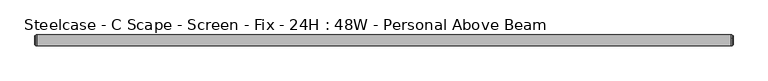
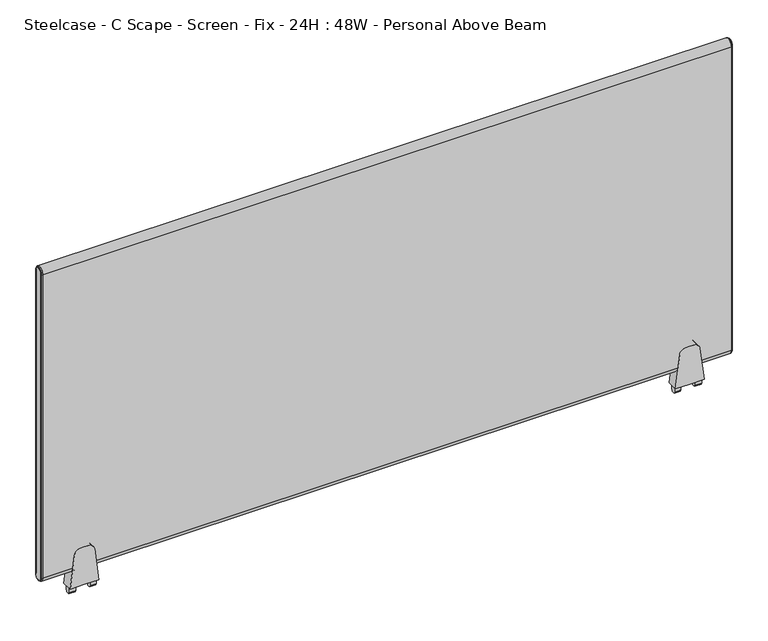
"""IFC4 building model written with IfcOpenShell, lengths in millimetres: furniture geometry, Steelcase - C Scape - Screen - Fix - 24H : 48W - Personal Above Beam."""

from ifc_helpers import new_model, si_unit, point, frame, frame_2d, origin, place, context, project, spatial, polyline, circle_curve, ellipse_curve, trimmed, segment, composite_curve, outline, extrude, source, transform, mapped, element, save
from ifc_brep_helpers import plane_surface, cylinder_surface, revolved_surface, advanced_brep


def steelcase_c_scape_screen_fix_24h_48w_personal_above_beam_5a57afd3(model_context):
    return source(origin(), model_context, "Body", "SolidModel", [
        extrude(outline(composite_curve([segment(polyline([(723.811112, 101.4730434), (784.1362421, 94.0661495)]), True, "CONTINUOUS"), segment(trimmed(circle_curve(frame_2d((782.8143718, 83.300233)), 10.8467645), [point((784.1362421, 94.0661495))], [point((793.6611362, 83.300233))], False, "CARTESIAN"), True, "CONTINUOUS"), segment(polyline([(793.6611362, 83.300233), (793.6611362, 76.2001674), (793.6611362, 69.1001018)]), True, "CONTINUOUS"), segment(trimmed(circle_curve(frame_2d((782.8143718, 69.1001018)), 10.8467645), [point((793.6611362, 69.1001018))], [point((784.1362421, 58.3341853))], False, "CARTESIAN"), True, "CONTINUOUS"), segment(polyline([(784.1362421, 58.3341853), (723.811112, 50.9272915), (723.811112, 76.2001674), (723.811112, 101.4730434)]), True, "CONTINUOUS")], self_intersect=False)), frame((0.0, -9.525, 0.0), z_axis=(0.0, 1.0, 0.0), x_axis=(0.0, 0.0, 1.0)), (0.0, 0.0, 1.0), 19.05),
        extrude(outline(polyline([(4.5465975, 723.811112), (4.5465975, 713.9051033), (4.0139265, 713.0186748), (2.9972008, 713.0186748), (2.9972008, 710.7834188), (0.0, 710.692), (-2.9972008, 710.7834188), (-2.9972008, 713.0186748), (-4.0139265, 713.0186748), (-4.5465975, 713.9051033), (-4.5465975, 723.811112), (0.0, 723.811112), (4.5465975, 723.811112)])), frame((88.9267162, 0.0, 0.0), z_axis=(1.0, 0.0, 0.0), x_axis=(0.0, 1.0, 0.0)), (0.0, 0.0, 1.0), 10.7813187),
        extrude(outline(polyline([(4.5465975, 723.811112), (4.5465975, 713.9051033), (4.0139265, 713.0186748), (2.9972008, 713.0186748), (2.9972008, 710.7834188), (0.0, 710.692), (-2.9972008, 710.7834188), (-2.9972008, 713.0186748), (-4.0139265, 713.0186748), (-4.5465975, 713.9051033), (-4.5465975, 723.811112), (0.0, 723.811112), (4.5465975, 723.811112)])), frame((52.6923, 0.0, 0.0), z_axis=(1.0, 0.0, 0.0), x_axis=(0.0, 1.0, 0.0)), (0.0, 0.0, 1.0), 10.7813187),
        extrude(outline(composite_curve([segment(polyline([(723.811112, 1167.5107132), (784.1362421, 1160.1038193)]), True, "CONTINUOUS"), segment(trimmed(circle_curve(frame_2d((782.8143718, 1149.3379028)), 10.8467645), [point((784.1362421, 1160.1038193))], [point((793.6611362, 1149.3379028))], False, "CARTESIAN"), True, "CONTINUOUS"), segment(polyline([(793.6611362, 1149.3379028), (793.6611362, 1142.2378372), (793.6611362, 1135.1377716)]), True, "CONTINUOUS"), segment(trimmed(circle_curve(frame_2d((782.8143718, 1135.1377716)), 10.8467645), [point((793.6611362, 1135.1377716))], [point((784.1362421, 1124.3718551))], False, "CARTESIAN"), True, "CONTINUOUS"), segment(polyline([(784.1362421, 1124.3718551), (723.811112, 1116.9649612), (723.811112, 1142.2378372), (723.811112, 1167.5107132)]), True, "CONTINUOUS")], self_intersect=False)), frame((0.0, -9.525, 0.0), z_axis=(0.0, 1.0, 0.0), x_axis=(0.0, 0.0, 1.0)), (0.0, 0.0, 1.0), 19.05),
        extrude(outline(polyline([(4.5465975, 723.811112), (4.5465975, 713.9051033), (4.0139265, 713.0186748), (2.9972008, 713.0186748), (2.9972008, 710.7834188), (0.0, 710.692), (-2.9972008, 710.7834188), (-2.9972008, 713.0186748), (-4.0139265, 713.0186748), (-4.5465975, 713.9051033), (-4.5465975, 723.811112), (0.0, 723.811112), (4.5465975, 723.811112)])), frame((1154.964386, 0.0, 0.0), z_axis=(1.0, 0.0, 0.0), x_axis=(0.0, 1.0, 0.0)), (0.0, 0.0, 1.0), 10.7813187),
        extrude(outline(polyline([(4.5465975, 723.811112), (4.5465975, 713.9051033), (4.0139265, 713.0186748), (2.9972008, 713.0186748), (2.9972008, 710.7834188), (0.0, 710.692), (-2.9972008, 710.7834188), (-2.9972008, 713.0186748), (-4.0139265, 713.0186748), (-4.5465975, 713.9051033), (-4.5465975, 723.811112), (0.0, 723.811112), (4.5465975, 723.811112)])), frame((1118.7299698, 0.0, 0.0), z_axis=(1.0, 0.0, 0.0), x_axis=(0.0, 1.0, 0.0)), (0.0, 0.0, 1.0), 10.7813187),
        advanced_brep(
        [(1215.6486613, -9.525, 1326.007), (1215.6486613, 9.525, 1326.007), (1215.6486613, 9.525, 760.857), (1215.6486613, -9.525, 760.857), (1218.4426613, 7.4929583, 1326.007), (1218.4426613, -7.4929583, 1326.007), (1218.4426613, -7.4929583, 760.857), (1218.4426613, 7.4929583, 760.857), (1217.9346545, -8.0009651, 1326.007), (1217.9346545, 8.0009651, 1326.007), (1216.6646613, 8.0009651, 1326.007), (1216.6646613, -8.0009651, 1326.007), (1216.6646613, -8.8204932, 1326.007), (1216.6646613, 8.8204932, 1326.007), (1216.6646613, -8.0009651, 760.857), (1217.9346545, -8.0009651, 760.857), (1216.6646613, -8.8204932, 760.857), (1216.6646613, 8.0009651, 760.857), (1217.9346545, 8.0009651, 760.857), (1216.6646613, 8.8204932, 760.857)],
        [
            (0, 1, circle_curve(frame((1215.6486613, 0.0, 1326.007), z_axis=(-1.0, 0.0, 0.0), x_axis=(0.0, 1.0, 0.0)), 9.525)),
            (1, 2),
            (2, 3, circle_curve(frame((1215.6486613, 0.0, 760.857), z_axis=(-1.0, 0.0, 0.0), x_axis=(0.0, -1.0, 0.0)), 9.525)),
            (3, 0),
            (4, 5, circle_curve(frame((1218.4426613, 0.0, 1326.007), z_axis=(1.0, 0.0, 0.0), x_axis=(0.0, 1.0, 0.0)), 7.4929583)),
            (5, 6),
            (6, 7, circle_curve(frame((1218.4426613, 0.0, 760.857), z_axis=(1.0, 0.0, 0.0), x_axis=(0.0, -1.0, 0.0)), 7.4929583)),
            (7, 4),
            (8, 9, circle_curve(frame((1217.9346545, 0.0, 1326.007), z_axis=(-1.0, 0.0, 0.0), x_axis=(0.0, 1.0, 0.0)), 8.0009651)),
            (9, 10),
            (10, 11, circle_curve(frame((1216.6646613, 0.0, 1326.007), z_axis=(1.0, 0.0, 0.0), x_axis=(0.0, 1.0, 0.0)), 8.0009651)),
            (11, 8),
            (8, 5, circle_curve(frame((1217.9346545, -7.4929583, 1326.007), z_axis=(0.0, 0.0, 1.0), x_axis=(0.0, -1.0, 0.0)), 0.5080068)),
            (4, 9, circle_curve(frame((1217.9346545, 7.4929583, 1326.007), z_axis=(0.0, 0.0, 1.0), x_axis=(0.0, 1.0, 0.0)), 0.5080068)),
            (12, 13, circle_curve(frame((1216.6646613, 0.0, 1326.007), z_axis=(-1.0, 0.0, 0.0), x_axis=(0.0, 1.0, 0.0)), 8.8204932)),
            (13, 1, circle_curve(frame((1215.5806211, 8.3420139, 1326.007), z_axis=(0.0, 0.0, 1.0), x_axis=(0.0, 1.0, 0.0)), 1.1849411)),
            (0, 12, circle_curve(frame((1215.5806211, -8.3420139, 1326.007), z_axis=(0.0, 0.0, 1.0), x_axis=(0.0, -1.0, 0.0)), 1.1849411)),
            (11, 14),
            (14, 15),
            (15, 8),
            (15, 6, circle_curve(frame((1217.9346545, -7.4929583, 760.857), z_axis=(0.0, 0.0, 1.0), x_axis=(0.0, -1.0, 0.0)), 0.5080068)),
            (3, 16, circle_curve(frame((1215.5806211, -8.3420139, 760.857), z_axis=(0.0, 0.0, 1.0), x_axis=(0.0, -1.0, 0.0)), 1.1849411)),
            (16, 12),
            (14, 17, circle_curve(frame((1216.6646613, 0.0, 760.857), z_axis=(1.0, 0.0, 0.0), x_axis=(0.0, -1.0, 0.0)), 8.0009651)),
            (17, 18),
            (18, 15, circle_curve(frame((1217.9346545, 0.0, 760.857), z_axis=(-1.0, 0.0, 0.0), x_axis=(0.0, -1.0, 0.0)), 8.0009651)),
            (18, 7, circle_curve(frame((1217.9346545, 7.4929583, 760.857), z_axis=(0.0, 0.0, -1.0), x_axis=(0.0, 1.0, 0.0)), 0.5080068)),
            (2, 19, circle_curve(frame((1215.5806211, 8.3420139, 760.857), z_axis=(0.0, 0.0, -1.0), x_axis=(0.0, 1.0, 0.0)), 1.1849411)),
            (19, 16, circle_curve(frame((1216.6646613, 0.0, 760.857), z_axis=(-1.0, 0.0, 0.0), x_axis=(0.0, -1.0, 0.0)), 8.8204932)),
            (9, 18),
            (17, 10),
            (13, 19),
        ],
        [
            plane_surface(frame((1215.6486613, -6.3509705, 1326.007), z_axis=(-1.0, 0.0, 0.0), x_axis=(0.0, 0.0, 1.0))),
            plane_surface(frame((1218.4426613, -6.3509705, 1326.007), z_axis=(1.0, 0.0, 0.0), x_axis=(0.0, 0.0, -1.0))),
            cylinder_surface(frame((1215.6486613, 0.0, 1326.007), z_axis=(1.0, 0.0, 0.0), x_axis=(0.0, 1.0, 0.0)), 8.0009651),
            revolved_surface(trimmed(ellipse_curve(frame((1217.9346545, 7.4929583, 1326.007), z_axis=(0.0, 0.0, -1.0), x_axis=(0.0, 1.0, 0.0)), 0.5080068, 0.5080068), [point((1217.9346545, 8.0009651, 1326.007))], [point((1218.4426613, 7.4929583, 1326.007))], True, "CARTESIAN"), (1215.6486613, 0.0, 1326.007), (1.0, 0.0, 0.0)),
            revolved_surface(trimmed(ellipse_curve(frame((1215.5806211, 8.3420139, 1326.007), z_axis=(0.0, 0.0, -1.0), x_axis=(0.0, 1.0, 0.0)), 1.1849411, 1.1849411), [point((1215.6486613, 9.525, 1326.007))], [point((1216.6646613, 8.8204932, 1326.007))], True, "CARTESIAN"), (1215.6486613, 0.0, 1326.007), (1.0, 0.0, 0.0)),
            plane_surface(frame((1216.6646613, -8.0009651, 1326.007), z_axis=(0.0, -1.0, 0.0), x_axis=(0.0, 0.0, -1.0))),
            cylinder_surface(frame((1217.9346545, -7.4929583, 1326.007), z_axis=(0.0, 0.0, 1.0), x_axis=(0.0, -1.0, 0.0)), 0.5080068),
            cylinder_surface(frame((1215.5806211, -8.3420139, 1326.007), z_axis=(0.0, 0.0, 1.0), x_axis=(0.0, -1.0, 0.0)), 1.1849411),
            cylinder_surface(frame((1215.6486613, 0.0, 760.857), z_axis=(1.0, 0.0, 0.0), x_axis=(0.0, -1.0, 0.0)), 8.0009651),
            revolved_surface(trimmed(ellipse_curve(frame((1217.9346545, -7.4929583, 760.857), z_axis=(0.0, 0.0, 1.0), x_axis=(0.0, -1.0, 0.0)), 0.5080068, 0.5080068), [point((1217.9346545, -8.0009651, 760.857))], [point((1218.4426613, -7.4929583, 760.857))], True, "CARTESIAN"), (1215.6486613, 0.0, 760.857), (1.0, 0.0, 0.0)),
            revolved_surface(trimmed(ellipse_curve(frame((1215.5806211, -8.3420139, 760.857), z_axis=(0.0, 0.0, 1.0), x_axis=(0.0, -1.0, 0.0)), 1.1849411, 1.1849411), [point((1215.6486613, -9.525, 760.857))], [point((1216.6646613, -8.8204932, 760.857))], True, "CARTESIAN"), (1215.6486613, 0.0, 760.857), (1.0, 0.0, 0.0)),
            plane_surface(frame((1216.6646613, 8.0009651, 760.857), z_axis=(0.0, 1.0, 0.0), x_axis=(0.0, 0.0, 1.0))),
            cylinder_surface(frame((1217.9346545, 7.4929583, 760.857), z_axis=(0.0, 0.0, -1.0), x_axis=(0.0, 1.0, 0.0)), 0.5080068),
            cylinder_surface(frame((1215.5806211, 8.3420139, 760.857), z_axis=(0.0, 0.0, -1.0), x_axis=(0.0, 1.0, 0.0)), 1.1849411),
            plane_surface(frame((1216.6646613, 8.8204932, 760.857), z_axis=(1.0, 0.0, 0.0), x_axis=(0.0, 0.0, 1.0))),
        ],
        [
            (0, [[1, 2, 3, 4]]),
            (1, [[5, 6, 7, 8]]),
            (2, [[9, 10, 11, 12]]),
            (3, [[-9, 13, -5, 14]]),
            (4, [[15, 16, -1, 17]]),
            (5, [[-12, 18, 19, 20]]),
            (6, [[-13, -20, 21, -6]]),
            (7, [[-17, -4, 22, 23]]),
            (8, [[-19, 24, 25, 26]]),
            (9, [[-21, -26, 27, -7]]),
            (10, [[-22, -3, 28, 29]]),
            (11, [[-10, 30, -25, 31]]),
            (12, [[-14, -8, -27, -30]]),
            (13, [[-16, 32, -28, -2]]),
            (14, [[-15, -23, -29, -32], [-11, -31, -24, -18]]),
        ],
    ),
        advanced_brep(
        [(2.7940155, 9.525, 1326.007), (2.7940155, -9.525, 1326.007), (2.7940155, -9.525, 760.857), (2.7940155, 9.525, 760.857), (0.0, -7.4929583, 1326.007), (0.0, 7.4929583, 1326.007), (0.0, 7.4929583, 760.857), (0.0, -7.4929583, 760.857), (1.778, 8.8204932, 1326.007), (1.778, -8.8204932, 1326.007), (0.5080068, -8.0009651, 1326.007), (0.5080068, 8.0009651, 1326.007), (1.778, -8.0009651, 1326.007), (1.778, 8.0009651, 1326.007), (1.778, -8.8204932, 760.857), (0.5080068, -8.0009651, 760.857), (1.778, -8.0009651, 760.857), (1.778, 8.8204932, 760.857), (0.5080068, 8.0009651, 760.857), (1.778, 8.0009651, 760.857)],
        [
            (0, 1, circle_curve(frame((2.7940155, 0.0, 1326.007), z_axis=(1.0, 0.0, 0.0), x_axis=(0.0, 1.0, 0.0)), 9.525)),
            (1, 2),
            (2, 3, circle_curve(frame((2.7940155, 0.0, 760.857), z_axis=(1.0, 0.0, 0.0), x_axis=(0.0, -1.0, 0.0)), 9.525)),
            (3, 0),
            (4, 5, circle_curve(frame((0.0, 0.0, 1326.007), z_axis=(-1.0, 0.0, 0.0), x_axis=(0.0, 1.0, 0.0)), 7.4929583)),
            (5, 6),
            (6, 7, circle_curve(frame((0.0, 0.0, 760.857), z_axis=(-1.0, 0.0, 0.0), x_axis=(0.0, -1.0, 0.0)), 7.4929583)),
            (7, 4),
            (0, 8, circle_curve(frame((2.8620402, 8.3420139, 1326.007), z_axis=(0.0, 0.0, 1.0), x_axis=(0.0, -1.0, 0.0)), 1.1849411)),
            (8, 9, circle_curve(frame((1.778, 0.0, 1326.007), z_axis=(1.0, 0.0, 0.0), x_axis=(0.0, 1.0, 0.0)), 8.8204932)),
            (9, 1, circle_curve(frame((2.8620402, -8.3420139, 1326.007), z_axis=(0.0, 0.0, 1.0), x_axis=(0.0, 1.0, 0.0)), 1.1849411)),
            (10, 11, circle_curve(frame((0.5080068, 0.0, 1326.007), z_axis=(-1.0, 0.0, 0.0), x_axis=(0.0, 1.0, 0.0)), 8.0009651)),
            (11, 5, circle_curve(frame((0.5080068, 7.4929583, 1326.007), z_axis=(0.0, 0.0, 1.0), x_axis=(0.0, -1.0, 0.0)), 0.5080068)),
            (4, 10, circle_curve(frame((0.5080068, -7.4929583, 1326.007), z_axis=(0.0, 0.0, 1.0), x_axis=(0.0, 1.0, 0.0)), 0.5080068)),
            (10, 12),
            (12, 13, circle_curve(frame((1.778, 0.0, 1326.007), z_axis=(-1.0, 0.0, 0.0), x_axis=(0.0, 1.0, 0.0)), 8.0009651)),
            (13, 11),
            (9, 14),
            (14, 2, circle_curve(frame((2.8620402, -8.3420139, 760.857), z_axis=(0.0, 0.0, 1.0), x_axis=(0.0, 1.0, 0.0)), 1.1849411)),
            (7, 15, circle_curve(frame((0.5080068, -7.4929583, 760.857), z_axis=(0.0, 0.0, 1.0), x_axis=(0.0, 1.0, 0.0)), 0.5080068)),
            (15, 10),
            (15, 16),
            (16, 12),
            (14, 17, circle_curve(frame((1.778, 0.0, 760.857), z_axis=(1.0, 0.0, 0.0), x_axis=(0.0, -1.0, 0.0)), 8.8204932)),
            (17, 3, circle_curve(frame((2.8620402, 8.3420139, 760.857), z_axis=(0.0, 0.0, -1.0), x_axis=(0.0, -1.0, 0.0)), 1.1849411)),
            (6, 18, circle_curve(frame((0.5080068, 7.4929583, 760.857), z_axis=(0.0, 0.0, -1.0), x_axis=(0.0, -1.0, 0.0)), 0.5080068)),
            (18, 15, circle_curve(frame((0.5080068, 0.0, 760.857), z_axis=(-1.0, 0.0, 0.0), x_axis=(0.0, -1.0, 0.0)), 8.0009651)),
            (18, 19),
            (19, 16, circle_curve(frame((1.778, 0.0, 760.857), z_axis=(-1.0, 0.0, 0.0), x_axis=(0.0, -1.0, 0.0)), 8.0009651)),
            (8, 17),
            (19, 13),
            (11, 18),
        ],
        [
            plane_surface(frame((2.7940155, -6.3509705, 1326.007), z_axis=(1.0, 0.0, 0.0), x_axis=(0.0, 0.0, -1.0))),
            plane_surface(frame((0.0, -6.3509705, 1326.007), z_axis=(-1.0, 0.0, 0.0), x_axis=(0.0, 0.0, 1.0))),
            revolved_surface(trimmed(ellipse_curve(frame((2.8620402, 8.3420139, 1326.007), z_axis=(0.0, 0.0, -1.0), x_axis=(0.0, -1.0, 0.0)), 1.1849411, 1.1849411), [point((1.778, 8.8204932, 1326.007))], [point((2.794, 9.525, 1326.007))], True, "CARTESIAN"), (2.794, 0.0, 1326.007), (1.0, 0.0, 0.0)),
            revolved_surface(trimmed(ellipse_curve(frame((0.5080068, 7.4929583, 1326.007), z_axis=(0.0, 0.0, -1.0), x_axis=(0.0, -1.0, 0.0)), 0.5080068, 0.5080068), [point((0.0, 7.4929583, 1326.007))], [point((0.5080068, 8.0009651, 1326.007))], True, "CARTESIAN"), (2.794, 0.0, 1326.007), (1.0, 0.0, 0.0)),
            cylinder_surface(frame((2.794, 0.0, 1326.007), z_axis=(1.0, 0.0, 0.0), x_axis=(0.0, 1.0, 0.0)), 8.0009651),
            cylinder_surface(frame((2.8620402, -8.3420139, 1326.007), z_axis=(0.0, 0.0, 1.0), x_axis=(0.0, 1.0, 0.0)), 1.1849411),
            cylinder_surface(frame((0.5080068, -7.4929583, 1326.007), z_axis=(0.0, 0.0, 1.0), x_axis=(0.0, 1.0, 0.0)), 0.5080068),
            plane_surface(frame((0.5080068, -8.0009651, 1326.007), z_axis=(0.0, -1.0, 0.0), x_axis=(0.0, 0.0, -1.0))),
            revolved_surface(trimmed(ellipse_curve(frame((2.8620402, -8.3420139, 760.857), z_axis=(0.0, 0.0, 1.0), x_axis=(0.0, 1.0, 0.0)), 1.1849411, 1.1849411), [point((1.778, -8.8204932, 760.857))], [point((2.794, -9.525, 760.857))], True, "CARTESIAN"), (2.794, 0.0, 760.857), (1.0, 0.0, 0.0)),
            revolved_surface(trimmed(ellipse_curve(frame((0.5080068, -7.4929583, 760.857), z_axis=(0.0, 0.0, 1.0), x_axis=(0.0, 1.0, 0.0)), 0.5080068, 0.5080068), [point((0.0, -7.4929583, 760.857))], [point((0.5080068, -8.0009651, 760.857))], True, "CARTESIAN"), (2.794, 0.0, 760.857), (1.0, 0.0, 0.0)),
            cylinder_surface(frame((2.794, 0.0, 760.857), z_axis=(1.0, 0.0, 0.0), x_axis=(0.0, -1.0, 0.0)), 8.0009651),
            plane_surface(frame((1.778, 8.0009651, 760.857), z_axis=(-1.0, 0.0, 0.0), x_axis=(0.0, 0.0, 1.0))),
            cylinder_surface(frame((2.8620402, 8.3420139, 760.857), z_axis=(0.0, 0.0, -1.0), x_axis=(0.0, -1.0, 0.0)), 1.1849411),
            cylinder_surface(frame((0.5080068, 7.4929583, 760.857), z_axis=(0.0, 0.0, -1.0), x_axis=(0.0, -1.0, 0.0)), 0.5080068),
            plane_surface(frame((0.5080068, 8.0009651, 760.857), z_axis=(0.0, 1.0, 0.0), x_axis=(0.0, 0.0, 1.0))),
        ],
        [
            (0, [[1, 2, 3, 4]]),
            (1, [[5, 6, 7, 8]]),
            (2, [[-1, 9, 10, 11]]),
            (3, [[12, 13, -5, 14]]),
            (4, [[-12, 15, 16, 17]]),
            (5, [[-11, 18, 19, -2]]),
            (6, [[-14, -8, 20, 21]]),
            (7, [[-15, -21, 22, 23]]),
            (8, [[-19, 24, 25, -3]]),
            (9, [[-20, -7, 26, 27]]),
            (10, [[-22, -27, 28, 29]]),
            (11, [[-10, 30, -24, -18], [-16, -23, -29, 31]]),
            (12, [[-9, -4, -25, -30]]),
            (13, [[-13, 32, -26, -6]]),
            (14, [[-17, -31, -28, -32]]),
        ],
    ),
        extrude(outline(composite_curve([segment(trimmed(circle_curve(frame_2d((0.0, 1326.007)), 9.525), [point((-9.525, 1326.007))], [point((9.525, 1326.007))], False, "CARTESIAN"), True, "CONTINUOUS"), segment(polyline([(9.525, 1326.007), (9.525, 760.857)]), True, "CONTINUOUS"), segment(trimmed(circle_curve(frame_2d((0.0, 760.857)), 9.525), [point((9.525, 760.857))], [point((-9.525, 760.857))], False, "CARTESIAN"), True, "CONTINUOUS"), segment(polyline([(-9.525, 760.857), (-9.525, 1326.007)]), True, "CONTINUOUS")], self_intersect=False)), frame((2.794, 0.0, 0.0), z_axis=(1.0, 0.0, 0.0), x_axis=(0.0, 1.0, 0.0)), (0.0, 0.0, 1.0), 1212.8546613),
    ])


if __name__ == "__main__":
    model = new_model("IFC4")
    model_context = context("Model", 3, world=origin())
    ifc_project = project(units=[si_unit("LENGTHUNIT", "METRE", prefix="MILLI")], contexts=[model_context])
    site = spatial("IfcSite", under=ifc_project)
    building = spatial("IfcBuilding", under=site)
    placement = place(None, origin())
    steelcase_c_scape_screen_fix_24h_48w_personal_above_beam_shape = steelcase_c_scape_screen_fix_24h_48w_personal_above_beam_5a57afd3(model_context)
    element("IfcFurniture", 1, ObjectType="Steelcase - C Scape - Screen - Fix - 24H : 48W - Personal Above Beam", at=placement, inside=building, context=model_context, shape_type="MappedRepresentation", body=[
        mapped(steelcase_c_scape_screen_fix_24h_48w_personal_above_beam_shape, transform((0.0, 0.0, 0.0), x_axis=(1.0, 0.0, 0.0), y_axis=(0.0, 1.0, 0.0), z_axis=(0.0, 0.0, 1.0))),
    ])
    save(model, "model.ifc")
